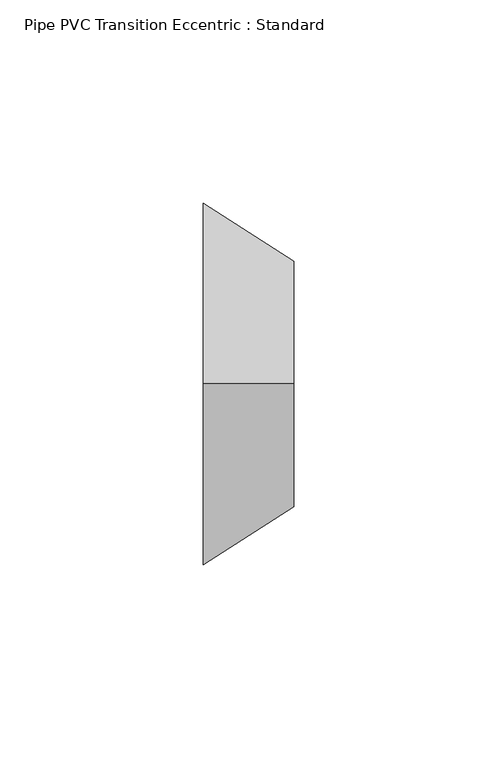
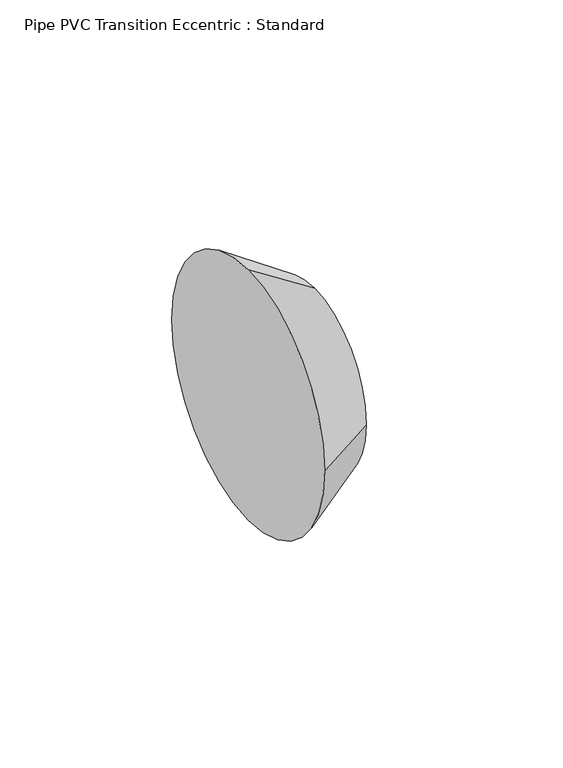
"""IFC4 building model written with IfcOpenShell, lengths in millimetres: pipe fitting geometry, Pipe PVC Transition Eccentric : Standard."""

from ifc_helpers import new_model, si_unit, frame, origin, place, context, project, spatial, polyline, circle_curve, source, transform, mapped, element, save
from ifc_brep_helpers import plane_surface, revolved_surface, advanced_brep


def pipe_pvc_transition_eccentric_standard_ba6eeb78(model_context):
    return source(origin(), model_context, "Body", "AdvancedBrep", [
        advanced_brep(
        [(22.225, 0.0, 30.1625), (22.225, -30.1625, 0.0), (22.225, 0.0, -30.1625), (22.225, 30.1625, 0.0), (0.0, 0.0, 44.45), (0.0, 44.45, 0.0), (0.0, 0.0, -44.45), (0.0, -44.45, 0.0)],
        [
            (0, 1, circle_curve(frame((22.225, 0.0, 0.0), z_axis=(1.0, 0.0, 0.0), x_axis=(0.0, 0.0, 1.0)), 30.1625)),
            (1, 2, circle_curve(frame((22.225, 0.0, 0.0), z_axis=(1.0, 0.0, 0.0), x_axis=(0.0, -1.0, 0.0)), 30.1625)),
            (2, 3, circle_curve(frame((22.225, 0.0, 0.0), z_axis=(1.0, 0.0, 0.0), x_axis=(0.0, 0.0, -1.0)), 30.1625)),
            (3, 0, circle_curve(frame((22.225, 0.0, 0.0), z_axis=(1.0, 0.0, 0.0), x_axis=(0.0, 1.0, 0.0)), 30.1625)),
            (4, 5, circle_curve(frame((0.0, 0.0, 0.0), z_axis=(-1.0, 0.0, 0.0), x_axis=(0.0, 1.0, 0.0)), 44.45)),
            (5, 6, circle_curve(frame((0.0, 0.0, 0.0), z_axis=(-1.0, 0.0, 0.0), x_axis=(0.0, 0.0, -1.0)), 44.45)),
            (6, 7, circle_curve(frame((0.0, 0.0, 0.0), z_axis=(-1.0, 0.0, 0.0), x_axis=(0.0, -1.0, 0.0)), 44.45)),
            (7, 4, circle_curve(frame((0.0, 0.0, 0.0), z_axis=(-1.0, 0.0, 0.0), x_axis=(0.0, 0.0, 1.0)), 44.45)),
            (7, 1),
            (0, 4),
            (6, 2),
            (5, 3),
        ],
        [
            plane_surface(frame((22.225, 0.0, 0.0), z_axis=(1.0, 0.0, 0.0), x_axis=(0.0, -1.0, 0.0))),
            plane_surface(frame((0.0, 0.0, 0.0), z_axis=(-1.0, 0.0, 0.0), x_axis=(0.0, -1.0, 0.0))),
            revolved_surface(polyline([(22.225, 0.0, 30.16249999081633), (0.0, 0.0, 44.45)]), (69.1444444, 0.0, 0.0), (-1.0, 0.0, 0.0)),
            revolved_surface(polyline([(22.225, -30.16249999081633, 0.0), (0.0, -44.45, 0.0)]), (69.1444444, 0.0, 0.0), (-1.0, 0.0, 0.0)),
            revolved_surface(polyline([(22.225, 0.0, -30.16249999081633), (0.0, 0.0, -44.45)]), (69.1444444, 0.0, 0.0), (-1.0, 0.0, 0.0)),
            revolved_surface(polyline([(22.225, 30.16249999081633, 0.0), (0.0, 44.45, 0.0)]), (69.1444444, 0.0, 0.0), (-1.0, 0.0, 0.0)),
        ],
        [
            (0, [[1, 2, 3, 4]]),
            (1, [[5, 6, 7, 8]]),
            (2, [[-8, 9, -1, 10]]),
            (3, [[-7, 11, -2, -9]]),
            (4, [[-6, 12, -3, -11]]),
            (5, [[-5, -10, -4, -12]]),
        ],
    ),
        advanced_brep(
        [(22.225, 0.0, 30.1625), (22.225, -30.1625, 0.0), (22.225, 0.0, -30.1625), (22.225, 30.1625, 0.0), (0.0, 0.0, 44.45), (0.0, 44.45, 0.0), (0.0, 0.0, -44.45), (0.0, -44.45, 0.0)],
        [
            (0, 1, circle_curve(frame((22.225, 0.0, 0.0), z_axis=(1.0, 0.0, 0.0), x_axis=(0.0, 0.0, 1.0)), 30.1625)),
            (1, 2, circle_curve(frame((22.225, 0.0, 0.0), z_axis=(1.0, 0.0, 0.0), x_axis=(0.0, -1.0, 0.0)), 30.1625)),
            (2, 3, circle_curve(frame((22.225, 0.0, 0.0), z_axis=(1.0, 0.0, 0.0), x_axis=(0.0, 0.0, -1.0)), 30.1625)),
            (3, 0, circle_curve(frame((22.225, 0.0, 0.0), z_axis=(1.0, 0.0, 0.0), x_axis=(0.0, 1.0, 0.0)), 30.1625)),
            (4, 5, circle_curve(frame((0.0, 0.0, 0.0), z_axis=(-1.0, 0.0, 0.0), x_axis=(0.0, 1.0, 0.0)), 44.45)),
            (5, 6, circle_curve(frame((0.0, 0.0, 0.0), z_axis=(-1.0, 0.0, 0.0), x_axis=(0.0, 0.0, -1.0)), 44.45)),
            (6, 7, circle_curve(frame((0.0, 0.0, 0.0), z_axis=(-1.0, 0.0, 0.0), x_axis=(0.0, -1.0, 0.0)), 44.45)),
            (7, 4, circle_curve(frame((0.0, 0.0, 0.0), z_axis=(-1.0, 0.0, 0.0), x_axis=(0.0, 0.0, 1.0)), 44.45)),
            (7, 1),
            (0, 4),
            (6, 2),
            (5, 3),
        ],
        [
            plane_surface(frame((22.225, 0.0, 0.0), z_axis=(1.0, 0.0, 0.0), x_axis=(0.0, -1.0, 0.0))),
            plane_surface(frame((0.0, 0.0, 0.0), z_axis=(-1.0, 0.0, 0.0), x_axis=(0.0, -1.0, 0.0))),
            revolved_surface(polyline([(22.225, 0.0, 30.16249999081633), (0.0, 0.0, 44.45)]), (69.1444444, 0.0, 0.0), (-1.0, 0.0, 0.0)),
            revolved_surface(polyline([(22.225, -30.16249999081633, 0.0), (0.0, -44.45, 0.0)]), (69.1444444, 0.0, 0.0), (-1.0, 0.0, 0.0)),
            revolved_surface(polyline([(22.225, 0.0, -30.16249999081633), (0.0, 0.0, -44.45)]), (69.1444444, 0.0, 0.0), (-1.0, 0.0, 0.0)),
            revolved_surface(polyline([(22.225, 30.16249999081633, 0.0), (0.0, 44.45, 0.0)]), (69.1444444, 0.0, 0.0), (-1.0, 0.0, 0.0)),
        ],
        [
            (0, [[1, 2, 3, 4]]),
            (1, [[5, 6, 7, 8]]),
            (2, [[-8, 9, -1, 10]]),
            (3, [[-7, 11, -2, -9]]),
            (4, [[-6, 12, -3, -11]]),
            (5, [[-5, -10, -4, -12]]),
        ],
    ),
    ])


if __name__ == "__main__":
    model = new_model("IFC4")
    model_context = context("Model", 3, world=origin())
    ifc_project = project(units=[si_unit("LENGTHUNIT", "METRE", prefix="MILLI")], contexts=[model_context])
    site = spatial("IfcSite", under=ifc_project)
    building = spatial("IfcBuilding", under=site)
    placement = place(None, origin())
    pipe_pvc_transition_eccentric_standard_shape = pipe_pvc_transition_eccentric_standard_ba6eeb78(model_context)
    element("IfcPipeFitting", 1, ObjectType="Pipe PVC Transition Eccentric : Standard", at=placement, inside=building, context=model_context, shape_type="MappedRepresentation", body=[
        mapped(pipe_pvc_transition_eccentric_standard_shape, transform((0.0, 0.0, 0.0), x_axis=(1.0, 0.0, 0.0), y_axis=(0.0, 1.0, 0.0), z_axis=(0.0, 0.0, 1.0))),
    ])
    save(model, "model.ifc")
